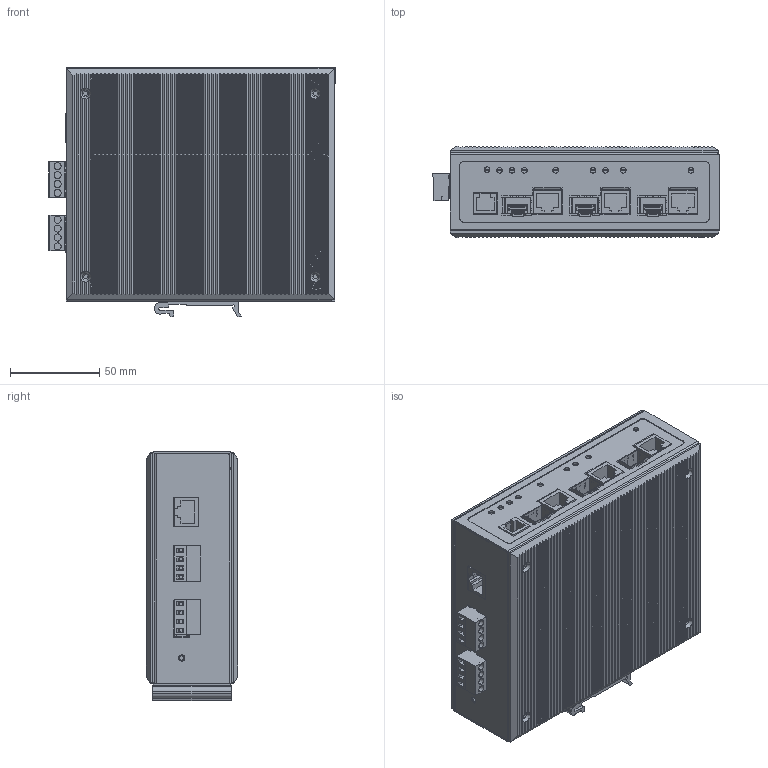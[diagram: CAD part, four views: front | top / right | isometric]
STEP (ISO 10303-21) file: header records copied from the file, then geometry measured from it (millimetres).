
FILE_DESCRIPTION((''),'2;1');
FILE_NAME('ASM0002_ASM','2011-05-17T',('Vincent_Huang'),(''),'PRO/ENGINEER BY PARAMETRIC TECHNOLOGY CORPORATION, 2004320','PRO/ENGINEER BY PARAMETRIC TECHNOLOGY CORPORATION, 2004320','');
FILE_SCHEMA(('CONFIG_CONTROL_DESIGN'));
Length unit declared in the file: millimetre
Products named in the file (59): BODY_48; BODY_47; BODY_46; LUMP_132; LUMP_179; LUMP_233; LUMP_394; LUMP_649; LUMP_1120; LUMP_2121; _BODY_45; BODY_45_ASM; BODY_44; BODY_43; BODY_42; BODY_41; BODY_40; BODY_39; BODY_38; LUMP_116; LUMP_170; LUMP_223; LUMP_365; LUMP_604; LUMP_1033; LUMP_1920; _BODY_37; BODY_37_ASM; BODY_36; BODY_35; BODY_34; BODY_33; BODY_32; BODY_31; BODY_30; BODY_29; BODY_28; BODY_27; BODY_26; BODY_25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
Assembly tree (58 placements, depth 3):
  ASM0002_ASM
    BODY_48
    BODY_47
    BODY_46
    BODY_45_ASM
      LUMP_132
      LUMP_179
      LUMP_233
      LUMP_394
      LUMP_649
      LUMP_1120
      LUMP_2121
      _BODY_45
    BODY_44
    BODY_43
    BODY_42
    BODY_41
    BODY_40
    BODY_39
    BODY_38
    BODY_37_ASM
      LUMP_116
      LUMP_170
      LUMP_223
      LUMP_365
      LUMP_604
      LUMP_1033
      LUMP_1920
      _BODY_37
    BODY_36
    BODY_35
    BODY_34
    BODY_33
    BODY_32
    BODY_31
    BODY_30
    BODY_29
    BODY_28
    BODY_27
    BODY_26
    BODY_25
    BODY_24
    BODY_23
    BODY_22
    BODY_21
    BODY_20
    BODY_19
    BODY_17
    BODY_16
    BODY_15
    BODY_14
    BODY_13
    BODY_12
    BODY_11
    BODY_9
    BODY_8
    BODY_6
    BODY_5
    BODY_3
Bounding box: 160.9 x 51.18 x 140.1 mm (x, y, z)
Volume: 321369.6 mm3; surface area: 372931.5 mm2
Topology: 56 solids, 74 shells, 5139 faces, 13932 edges, 9065 vertices
Faces by surface type: plane 3299, cylinder 1650, torus 68, extrusion 60, cone 54, bspline 8
Entity records: 166537 total; most frequent: CARTESIAN_POINT 34009, ORIENTED_EDGE 27864, DIRECTION 26560, EDGE_CURVE 13932, VECTOR 9876, LINE 9816, VERTEX_POINT 9065, AXIS2_PLACEMENT_3D 8342
